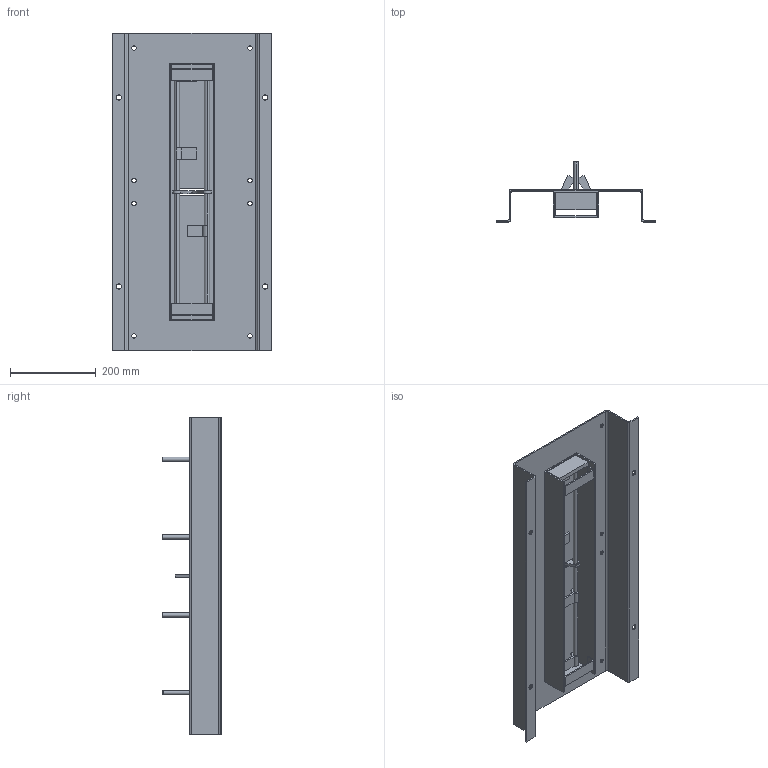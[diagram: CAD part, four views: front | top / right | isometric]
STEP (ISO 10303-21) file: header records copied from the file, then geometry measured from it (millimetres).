
FILE_DESCRIPTION((''),'2;1');
FILE_NAME('PRT0001','2014-03-12T',('khjungb'),(''),'PRO/ENGINEER BY PARAMETRIC TECHNOLOGY CORPORATION, 2013240','PRO/ENGINEER BY PARAMETRIC TECHNOLOGY CORPORATION, 2013240','');
FILE_SCHEMA(('CONFIG_CONTROL_DESIGN'));
Length unit declared in the file: millimetre
Products named in the file (1): PRT0001
Bounding box: 370 x 138.6 x 740 mm (x, y, z)
Volume: 1929391 mm3; surface area: 1003297.3 mm2
Topology: 1 solids, 1 shells, 278 faces, 706 edges, 462 vertices
Faces by surface type: cylinder 142, plane 134, torus 2
Entity records: 8604 total; most frequent: DIRECTION 1558, CARTESIAN_POINT 1446, ORIENTED_EDGE 1412, EDGE_CURVE 706, AXIS2_PLACEMENT_3D 574, VERTEX_POINT 462, VECTOR 410, LINE 410
